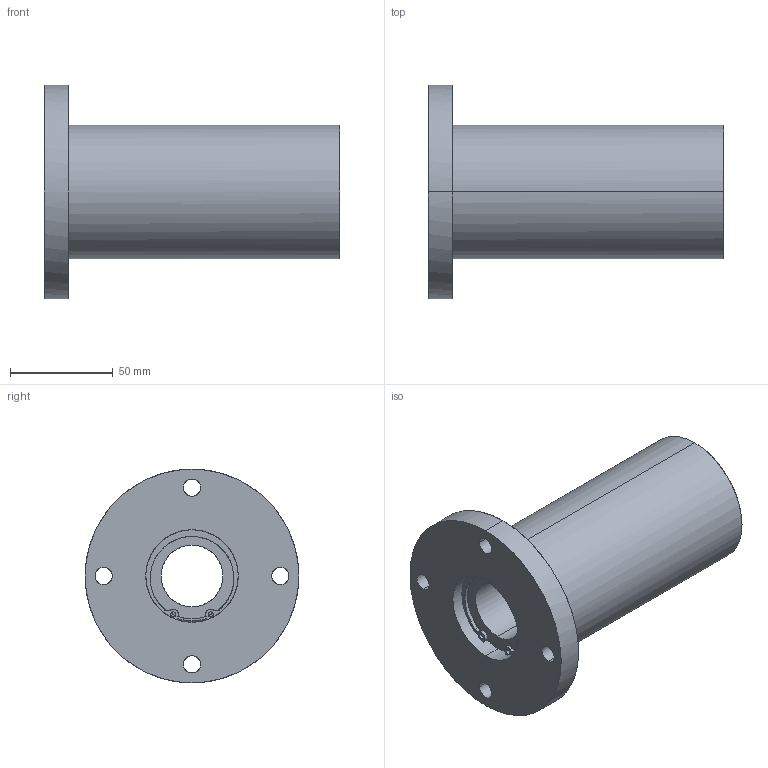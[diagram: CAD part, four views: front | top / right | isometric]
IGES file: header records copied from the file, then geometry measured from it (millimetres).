
Global section: file name: No Iges File Name specified; native system: AutoDesk Inventor R10; preprocessor: AutoDesk Inventor Iges Exporter R10; author: No Author specified; organization: No Organization specified; date: 20101214.134807; units: millimetre
Bounding box: 144 x 104 x 104 mm (x, y, z)
Surface area: 68315.6 mm2 (no closed solid volume)
Topology: 0 solids, 0 shells, 111 faces, 844 edges, 844 vertices
Faces by surface type: bspline 111
